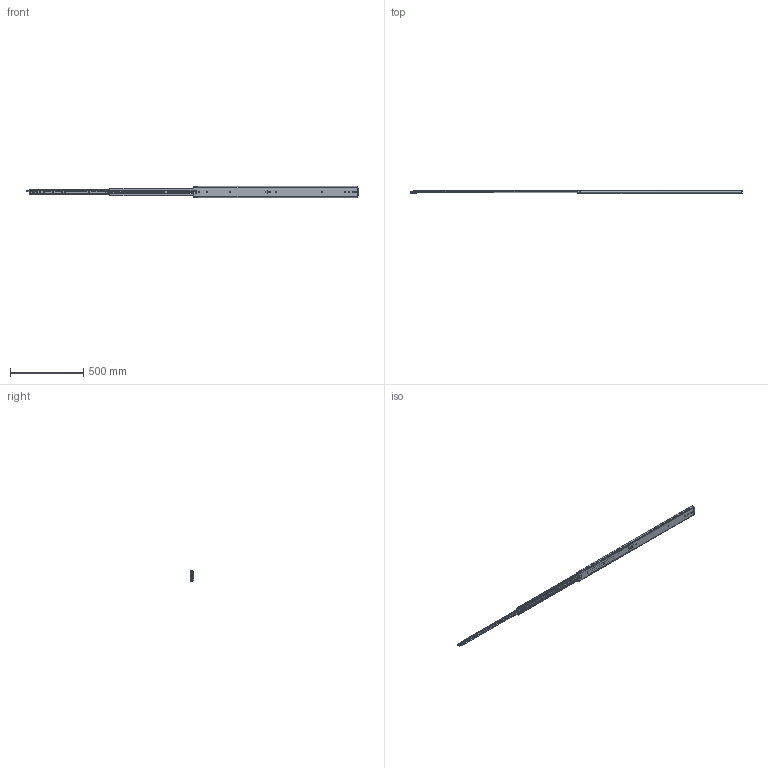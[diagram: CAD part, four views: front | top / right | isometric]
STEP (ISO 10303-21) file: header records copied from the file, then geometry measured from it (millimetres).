
FILE_DESCRIPTION((''),'2;1');
FILE_NAME('DG-76-3S-44YOU_ASM','2023-05-11T',('jishu015'),(''),'PRO/ENGINEER BY PARAMETRIC TECHNOLOGY CORPORATION, 2010280','PRO/ENGINEER BY PARAMETRIC TECHNOLOGY CORPORATION, 2010280','');
FILE_SCHEMA(('CONFIG_CONTROL_DESIGN'));
Products named in the file (29): KP-76-04WAIKE-1816___________; 1076-WAIKEZIDANJIAO16112; WAIK16____________ASM; 1076XIAOZHUTIAO-2251621; 16___________; 1076XIAOZHUTIAO-1751611_ASM; KP-76-04ZHONGGUI1816___________; 76CHANGGUIZHONGGUIJIAO1621___; 3X6WODIN16___________; ZHONGGUIBAIKOU16___________; PJ-76-30__________; PJ-76-03__________; 76-XIAOZHUJIA-11__________; GANGZHU-XIAO__________; ZHUJIA-XIAO___________ASM; ZHONGGUI6____________ASM; KP-76-04NEIGUI1816___________; PJ-76-31__________; DAOGPIAN16___________; 1053-3SBANJ01__________; JIAO-11__________; 76XINSUOKOU__________; PJ-338__________; PJ-356__________; PJ-357__________; PJ-336__________; M4X4__________; NEIGUI16____________ASM; DG-76-3S-44YOU_ASM
Assembly tree (88 placements, depth 4):
  DG-76-3S-44YOU_ASM
    WAIK16____________ASM
      KP-76-04WAIKE-1816___________
      1076-WAIKEZIDANJIAO16112  x2
    1076XIAOZHUTIAO-1751611_ASM  x2
      1076XIAOZHUTIAO-2251621
      16___________
    ZHONGGUI6____________ASM
      KP-76-04ZHONGGUI1816___________
      76CHANGGUIZHONGGUIJIAO1621___
      3X6WODIN16___________
      ZHONGGUIBAIKOU16___________
      PJ-76-30__________
      PJ-76-03__________
      ZHUJIA-XIAO___________ASM
        76-XIAOZHUJIA-11__________
        GANGZHU-XIAO__________  x40
    NEIGUI16____________ASM
      KP-76-04NEIGUI1816___________
      PJ-76-31__________
      DAOGPIAN16___________
      1053-3SBANJ01__________
      JIAO-11__________
      76XINSUOKOU__________
      PJ-338__________
      PJ-356__________
      PJ-357__________
      PJ-336__________
      M4X4__________
Bounding box: 2261.12 x 20.7 x 75.3 mm (x, y, z)
Volume: 736009.1 mm3; surface area: 708206.8 mm2
Topology: 104 solids, 104 shells, 2514 faces, 7670 edges, 4847 vertices
Faces by surface type: plane 1297, cylinder 923, sphere 167, bspline 60, cone 28, extrusion 23, torus 16
Entity records: 80824 total; most frequent: CARTESIAN_POINT 21525, ORIENTED_EDGE 13016, DIRECTION 11723, EDGE_CURVE 6508, VERTEX_POINT 4243, AXIS2_PLACEMENT_3D 4062, VECTOR 3599, LINE 3576
